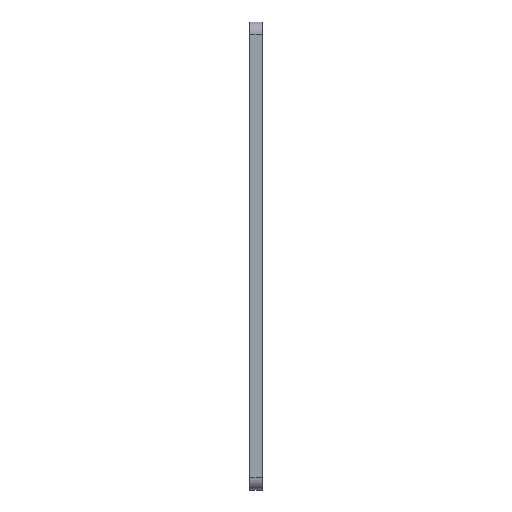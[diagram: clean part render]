
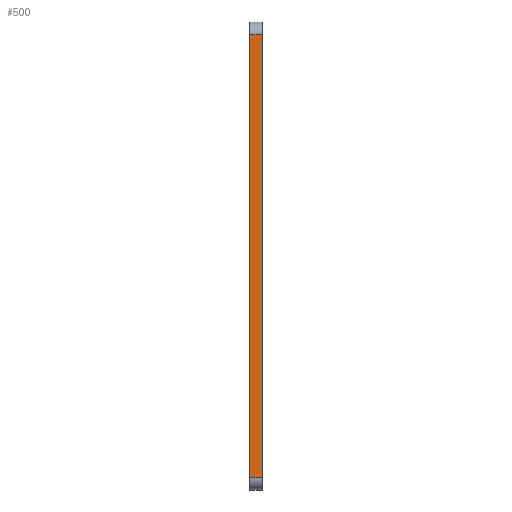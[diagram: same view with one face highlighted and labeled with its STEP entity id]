
A CAD part, left-side view. The second image highlights one B-rep face of the part: STEP entity #500.
In plain terms, the highlighted planar face has unit normal (-1, 0, 0).
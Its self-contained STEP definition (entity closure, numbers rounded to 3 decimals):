
#21 = VERTEX_POINT ( 'NONE', #442 ) ;
#66 = CARTESIAN_POINT ( 'NONE',  ( -38., 0., -18. ) ) ;
#111 = EDGE_CURVE ( 'NONE', #21, #579, #688, .T. ) ;
#115 = VECTOR ( 'NONE', #709, 1000. ) ;
#138 = CARTESIAN_POINT ( 'NONE',  ( -38., 0., -18. ) ) ;
#168 = CARTESIAN_POINT ( 'NONE',  ( -38., 0., -15. ) ) ;
#179 = CARTESIAN_POINT ( 'NONE',  ( -38., 3., 95. ) ) ;
#188 = FACE_OUTER_BOUND ( 'NONE', #569, .T. ) ;
#237 = DIRECTION ( 'NONE',  ( 0., 0., 1. ) ) ;
#279 = VERTEX_POINT ( 'NONE', #518 ) ;
#305 = LINE ( 'NONE', #481, #946 ) ;
#415 = ORIENTED_EDGE ( 'NONE', *, *, #111, .T. ) ;
#429 = LINE ( 'NONE', #168, #558 ) ;
#442 = CARTESIAN_POINT ( 'NONE',  ( -38., 0., -15. ) ) ;
#447 = DIRECTION ( 'NONE',  ( 0., -1., 0. ) ) ;
#479 = ORIENTED_EDGE ( 'NONE', *, *, #887, .T. ) ;
#481 = CARTESIAN_POINT ( 'NONE',  ( -38., 3., -18. ) ) ;
#500 = ADVANCED_FACE ( 'NONE', ( #188 ), #939, .T. ) ;
#512 = CARTESIAN_POINT ( 'NONE',  ( -38., 0., 95. ) ) ;
#518 = CARTESIAN_POINT ( 'NONE',  ( -38., 3., -15. ) ) ;
#558 = VECTOR ( 'NONE', #447, 1000. ) ;
#569 = EDGE_LOOP ( 'NONE', ( #415, #479, #789, #828 ) ) ;
#579 = VERTEX_POINT ( 'NONE', #512 ) ;
#583 = DIRECTION ( 'NONE',  ( -1., 0., 0. ) ) ;
#641 = CARTESIAN_POINT ( 'NONE',  ( -38., 0., 95. ) ) ;
#688 = LINE ( 'NONE', #66, #944 ) ;
#705 = EDGE_CURVE ( 'NONE', #279, #21, #429, .T. ) ;
#709 = DIRECTION ( 'NONE',  ( 0., 1., 0. ) ) ;
#741 = VERTEX_POINT ( 'NONE', #179 ) ;
#765 = AXIS2_PLACEMENT_3D ( 'NONE', #138, #583, #865 ) ;
#789 = ORIENTED_EDGE ( 'NONE', *, *, #834, .F. ) ;
#828 = ORIENTED_EDGE ( 'NONE', *, *, #705, .T. ) ;
#834 = EDGE_CURVE ( 'NONE', #279, #741, #305, .T. ) ;
#863 = LINE ( 'NONE', #641, #115 ) ;
#865 = DIRECTION ( 'NONE',  ( 0., 0., 1. ) ) ;
#887 = EDGE_CURVE ( 'NONE', #579, #741, #863, .T. ) ;
#922 = DIRECTION ( 'NONE',  ( 0., 0., 1. ) ) ;
#939 = PLANE ( 'NONE',  #765 ) ;
#944 = VECTOR ( 'NONE', #237, 1000. ) ;
#946 = VECTOR ( 'NONE', #922, 1000. ) ;
